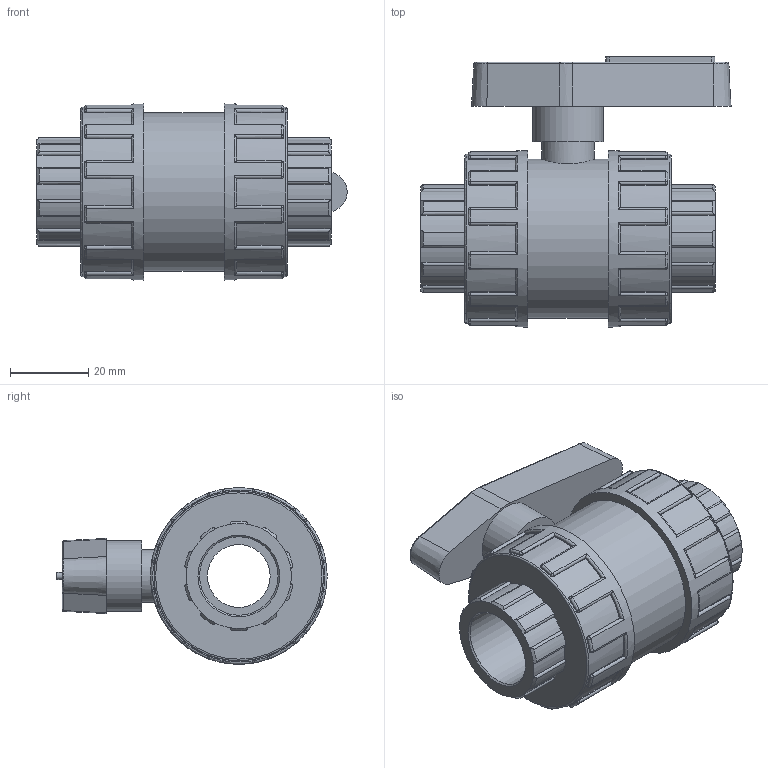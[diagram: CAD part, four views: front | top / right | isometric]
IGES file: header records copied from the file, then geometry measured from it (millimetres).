
Global section: file name: 11240020.ipt; native system: Autodesk Inventor 2015; preprocessor: unknown; author: KIM; date: 20171207.170242; units: millimetre
Bounding box: 79.07 x 68.85 x 45 mm (x, y, z)
Volume: 82686.3 mm3; surface area: 20742.6 mm2
Topology: 1 solids, 1 shells, 434 faces, 1085 edges, 662 vertices
Faces by surface type: cylinder 189, plane 114, revolution 59, sphere 48, cone 24
Full cylindrical faces by diameter (mm): 13.5 x1, 18 x1, 40.5 x1, 43.2 x2, 45 x2
